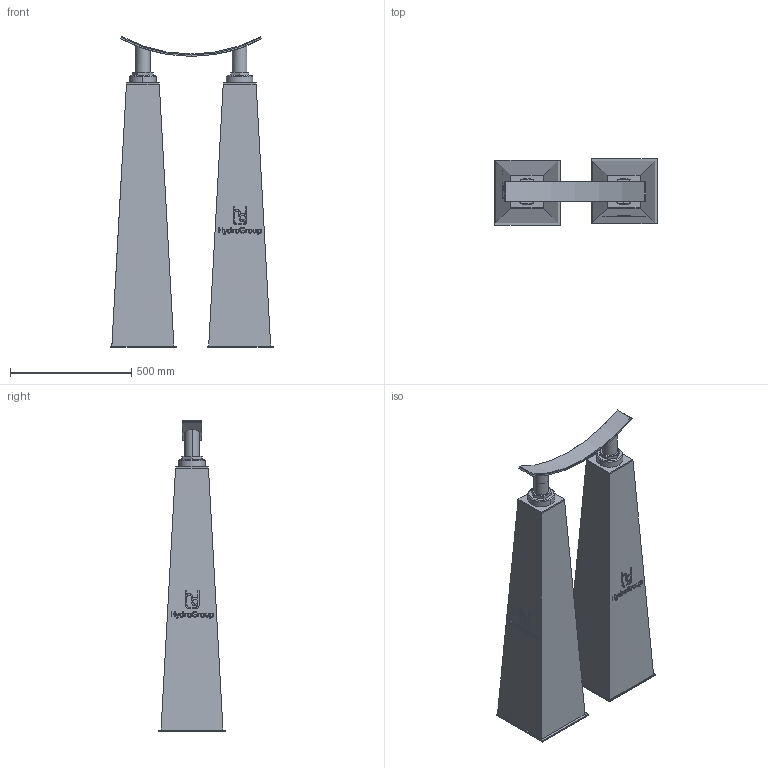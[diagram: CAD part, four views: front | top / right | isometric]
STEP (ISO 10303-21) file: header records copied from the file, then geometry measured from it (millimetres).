
FILE_DESCRIPTION(('STEP AP214'),'1');
FILE_NAME('RSRFE-IV-DUO_DN1200.stp','2018-06-29T11:48:30',(' '),(' '),'Spatial InterOp 3D',' ',' ');
FILE_SCHEMA(('automotive_design'));
Length unit declared in the file: millimetre
Products named in the file (10): 1; 2; 3; 4; 5; 6; 7; 8; 9; 10
Bounding box: 670 x 276.01 x 1284.57 mm (x, y, z)
Volume: 89724180.2 mm3; surface area: 2627276.7 mm2
Topology: 10 solids, 11 shells, 415 faces, 1028 edges, 672 vertices
Faces by surface type: plane 270, cylinder 67, extrusion 48, cone 30
Entity records: 17283 total; most frequent: CARTESIAN_POINT 3993, ORIENTED_EDGE 2056, DIRECTION 1854, EDGE_CURVE 1028, VECTOR 796, LINE 748, VERTEX_POINT 672, AXIS2_PLACEMENT_3D 529
